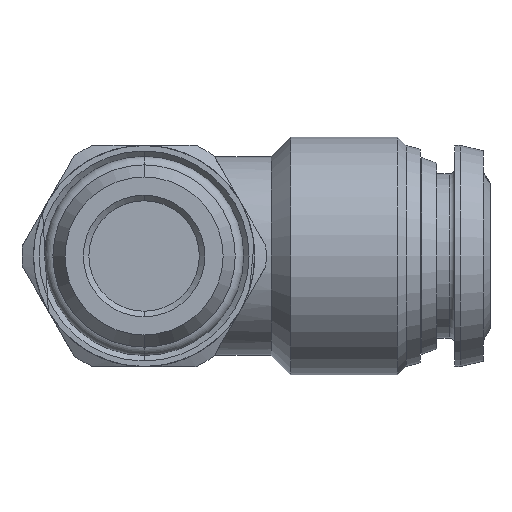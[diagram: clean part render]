
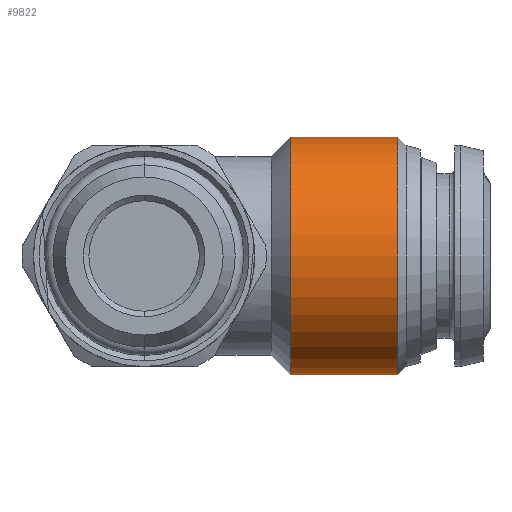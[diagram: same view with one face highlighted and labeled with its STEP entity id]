
A CAD part, front view. The second image highlights one B-rep face of the part: STEP entity #9822.
In plain terms, the highlighted cylindrical face has radius 10.75 mm (diameter 21.5 mm), a partial arc.
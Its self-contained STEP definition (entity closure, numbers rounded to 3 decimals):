
#1197 = VERTEX_POINT ( 'NONE', #5611 ) ;
#1198 = VERTEX_POINT ( 'NONE', #5610 ) ;
#1761 = EDGE_LOOP ( 'NONE', ( #4186, #4187, #4188, #4189 ) ) ;
#2590 = CARTESIAN_POINT ( 'NONE',  ( 0., 0., -10.75 ) ) ;
#2591 = DIRECTION ( 'NONE',  ( -1., 0., 0. ) ) ;
#2592 = CARTESIAN_POINT ( 'NONE',  ( 0., 0., 10.75 ) ) ;
#2594 = DIRECTION ( 'NONE',  ( -1., 0., 0. ) ) ;
#2613 = CARTESIAN_POINT ( 'NONE',  ( 22.948, 0., 0. ) ) ;
#2614 = DIRECTION ( 'NONE',  ( -1., 0., 0. ) ) ;
#2615 = DIRECTION ( 'NONE',  ( 0., 0., 1. ) ) ;
#2618 = CARTESIAN_POINT ( 'NONE',  ( 13.25, 0., 0. ) ) ;
#2619 = DIRECTION ( 'NONE',  ( -1., 0., 0. ) ) ;
#2620 = DIRECTION ( 'NONE',  ( 0., 0., 1. ) ) ;
#2980 = AXIS2_PLACEMENT_3D ( 'NONE', #4798, #4799, #4797 ) ;
#4186 = ORIENTED_EDGE ( 'NONE', *, *, #5309, .F. ) ;
#4187 = ORIENTED_EDGE ( 'NONE', *, *, #5318, .T. ) ;
#4188 = ORIENTED_EDGE ( 'NONE', *, *, #5310, .T. ) ;
#4189 = ORIENTED_EDGE ( 'NONE', *, *, #5319, .F. ) ;
#4364 = CARTESIAN_POINT ( 'NONE',  ( 13.25, 0., -10.75 ) ) ;
#4382 = CARTESIAN_POINT ( 'NONE',  ( 13.25, 0., 10.75 ) ) ;
#4797 = DIRECTION ( 'NONE',  ( 0., 0., 1. ) ) ;
#4798 = CARTESIAN_POINT ( 'NONE',  ( 0., 0., 0. ) ) ;
#4799 = DIRECTION ( 'NONE',  ( -1., 0., 0. ) ) ;
#5309 = EDGE_CURVE ( 'NONE', #1197, #9639, #6970, .T. ) ;
#5310 = EDGE_CURVE ( 'NONE', #1198, #9640, #6971, .T. ) ;
#5318 = EDGE_CURVE ( 'NONE', #1197, #1198, #6982, .T. ) ;
#5319 = EDGE_CURVE ( 'NONE', #9639, #9640, #6983, .T. ) ;
#5610 = CARTESIAN_POINT ( 'NONE',  ( 22.948, 0., 10.75 ) ) ;
#5611 = CARTESIAN_POINT ( 'NONE',  ( 22.948, 0., -10.75 ) ) ;
#6970 = LINE ( 'NONE', #2590, #6972 ) ;
#6971 = LINE ( 'NONE', #2592, #6974 ) ;
#6972 = VECTOR ( 'NONE', #2591, 1000. ) ;
#6974 = VECTOR ( 'NONE', #2594, 1000. ) ;
#6982 = CIRCLE ( 'NONE', #9125, 10.75 ) ;
#6983 = CIRCLE ( 'NONE', #9126, 10.75 ) ;
#7165 = FACE_OUTER_BOUND ( 'NONE', #1761, .T. ) ;
#7175 = CYLINDRICAL_SURFACE ( 'NONE', #2980, 10.75 ) ;
#9125 = AXIS2_PLACEMENT_3D ( 'NONE', #2613, #2614, #2615 ) ;
#9126 = AXIS2_PLACEMENT_3D ( 'NONE', #2618, #2619, #2620 ) ;
#9639 = VERTEX_POINT ( 'NONE', #4364 ) ;
#9640 = VERTEX_POINT ( 'NONE', #4382 ) ;
#9822 = ADVANCED_FACE ( 'NONE', ( #7165 ), #7175, .T. ) ;
